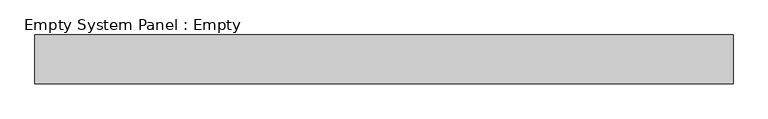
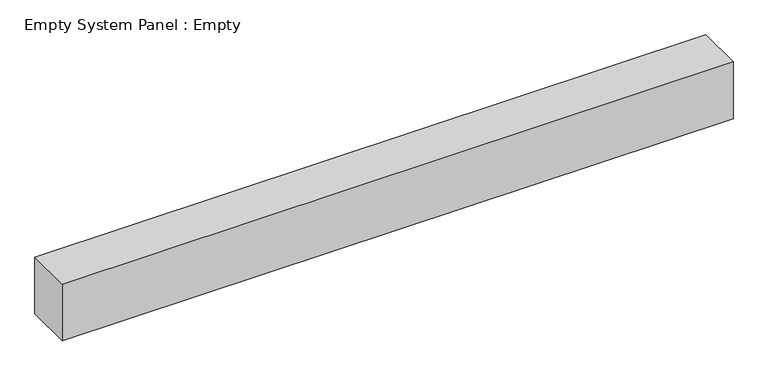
"""IFC4 building model written with IfcOpenShell, lengths in millimetres: plate geometry, Empty System Panel : Empty."""

from ifc_helpers import new_model, si_unit, origin, origin_with_axes, place, context, project, spatial, polyline, outline, extrude, source, transform, mapped, element, save


def empty_system_panel_empty_cd94e0d4(model_context):
    return source(origin(), model_context, "Body", "SweptSolid", [
        extrude(outline(polyline([(712.5, -50.0), (-712.5, -50.0), (-712.5, 50.0), (712.5, 50.0), (712.5, -50.0)])), origin_with_axes(), (0.0, 0.0, 1.0), 127.5),
    ])


if __name__ == "__main__":
    model = new_model("IFC4")
    model_context = context("Model", 3, world=origin())
    ifc_project = project(units=[si_unit("LENGTHUNIT", "METRE", prefix="MILLI")], contexts=[model_context])
    site = spatial("IfcSite", under=ifc_project)
    building = spatial("IfcBuilding", under=site)
    placement = place(None, origin())
    empty_system_panel_empty_shape = empty_system_panel_empty_cd94e0d4(model_context)
    element("IfcPlate", 1, ObjectType="Empty System Panel : Empty", at=placement, inside=building, context=model_context, shape_type="MappedRepresentation", body=[
        mapped(empty_system_panel_empty_shape, transform((0.0, 0.0, 0.0), x_axis=(1.0, 0.0, 0.0), y_axis=(0.0, 1.0, 0.0), z_axis=(0.0, 0.0, 1.0))),
    ])
    save(model, "model.ifc")
